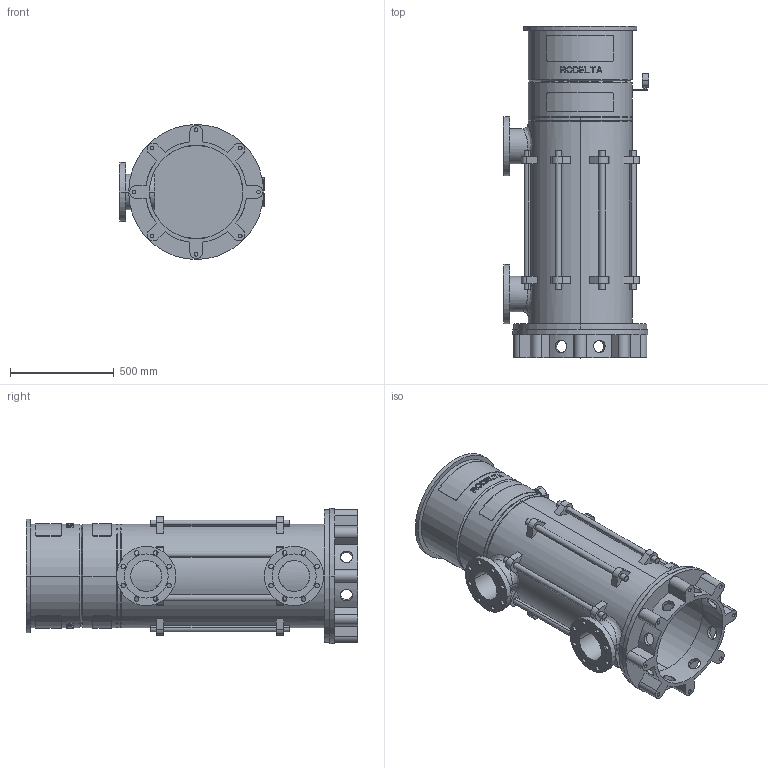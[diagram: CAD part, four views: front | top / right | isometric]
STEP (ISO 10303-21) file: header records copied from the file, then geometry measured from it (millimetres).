
FILE_DESCRIPTION((''),'2;1');
FILE_NAME('LS6_4TR_0GR_PN16_ABOVE_30KW','2025-10-23T13:54:04',('Lyritlocal'),(''),'CREO PARAMETRIC BY PTC INC, 2022014','CREO PARAMETRIC BY PTC INC, 2022014','');
FILE_SCHEMA(('CONFIG_CONTROL_DESIGN'));
Length unit declared in the file: millimetre
Products named in the file (1): LS6_4TR_0GR_PN16_ABOVE_30KW
Bounding box: 700 x 1597 x 650 mm (x, y, z)
Volume: 53239357.2 mm3; surface area: 7315313.9 mm2
Topology: 3 solids, 11 shells, 732 faces, 1889 edges, 1258 vertices
Faces by surface type: plane 438, cylinder 274, cone 12, bspline 8
Entity records: 24399 total; most frequent: CARTESIAN_POINT 6579, ORIENTED_EDGE 3746, DIRECTION 3535, EDGE_CURVE 1889, AXIS2_PLACEMENT_3D 1341, VERTEX_POINT 1258, EDGE_LOOP 895, VECTOR 853
